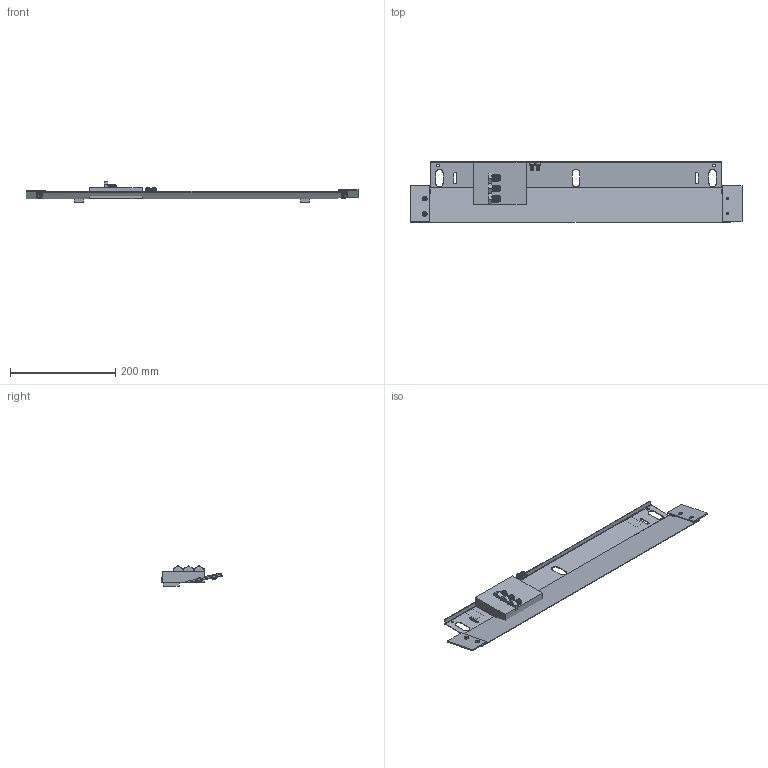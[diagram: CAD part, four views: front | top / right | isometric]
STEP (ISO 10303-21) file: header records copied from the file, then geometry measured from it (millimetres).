
FILE_DESCRIPTION((''),'2;1');
FILE_NAME('C31237_ASM_1_PILOT_230418_ASM','2023-04-24T09:10:22',('juliahuynh'),(''),'CREO PARAMETRIC BY PTC INC, 2022281','CREO PARAMETRIC BY PTC INC, 2022281','');
FILE_SCHEMA(('CONFIG_CONTROL_DESIGN'));
Products named in the file (17): C31237_1_PILOT_230418; 478517__1_PILOT_230418; 406087_1_PILOT_230418; C31237_PAINT_ASM_1_PILOT_230418_ASM; 221042_1_PILOT_230418; 426248_AF1_1_PILOT_230418; C27919_AF1_ASM_1_PILOT_230418_ASM; 408062_1_PILOT_230418; 405428__1_PILOT_230418; 426248_BULK_1_PILOT_230418; C32664_ASM_1_PILOT_230418_ASM; C27082_1_PILOT_230418; C31227_3_1_PILOT_230418; 405230_1_PILOT_230418; 220_611_40080_1_PILOT_230418; 426244_BULK_1_PILOT_230418; C31237_ASM_1_PILOT_230418_ASM
Assembly tree (27 placements, depth 3):
  C31237_ASM_1_PILOT_230418_ASM
    C31237_PAINT_ASM_1_PILOT_230418_ASM
      C31237_1_PILOT_230418
      478517__1_PILOT_230418
      406087_1_PILOT_230418
    C27919_AF1_ASM_1_PILOT_230418_ASM
      221042_1_PILOT_230418  x3
      426248_AF1_1_PILOT_230418
    408062_1_PILOT_230418
    C32664_ASM_1_PILOT_230418_ASM
      405428__1_PILOT_230418  x2
      426248_BULK_1_PILOT_230418
    C27082_1_PILOT_230418  x2
    C31227_3_1_PILOT_230418  x2
    405230_1_PILOT_230418  x4
    220_611_40080_1_PILOT_230418  x4
    426244_BULK_1_PILOT_230418
Bounding box: 632 x 115.26 x 38.72 mm (x, y, z)
Volume: 254479.7 mm3; surface area: 329671 mm2
Topology: 19 solids, 20 shells, 587 faces, 1638 edges, 1104 vertices
Faces by surface type: cylinder 239, plane 192, torus 70, cone 46, bspline 40
Entity records: 15554 total; most frequent: CARTESIAN_POINT 7251, ORIENTED_EDGE 1690, DIRECTION 1657, EDGE_CURVE 845, AXIS2_PLACEMENT_3D 633, VERTEX_POINT 561, VECTOR 391, LINE 391
